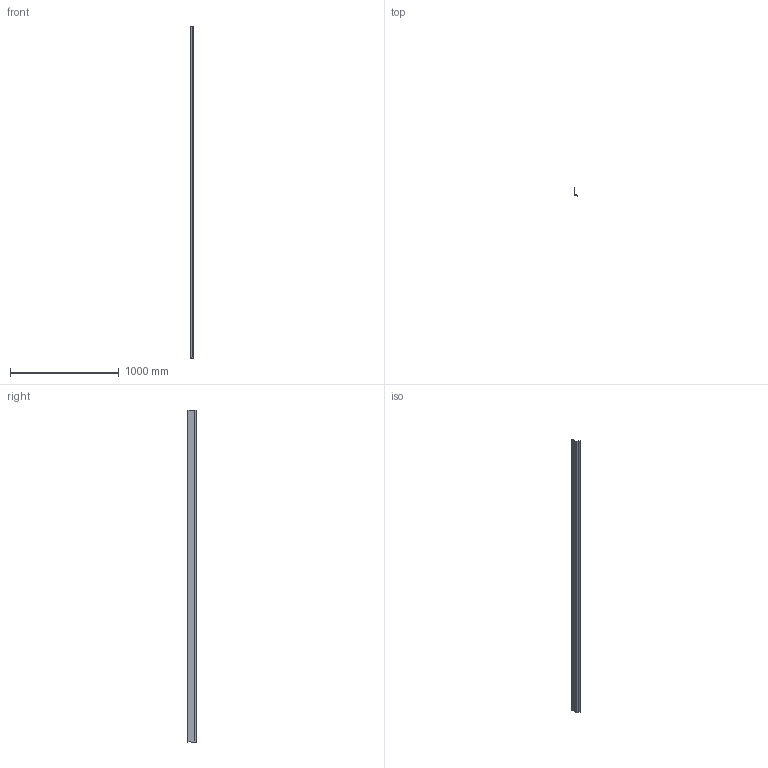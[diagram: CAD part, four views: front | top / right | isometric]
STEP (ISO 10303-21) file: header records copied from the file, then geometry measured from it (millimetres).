
FILE_DESCRIPTION (( 'STEP AP203' ), '1' );
FILE_NAME ('M55G.STEP', '2018-06-15T17:28:52', ( 'Michael Moliner' ), ( '' ), 'SwSTEP 2.0', 'SolidWorks 2018', '' );
FILE_SCHEMA (( 'CONFIG_CONTROL_DESIGN' ));
Length unit declared in the file: inch
Products named in the file (2): M55G
Bounding box: 34.02 x 75.77 x 3048 mm (x, y, z)
Volume: 216125.4 mm3; surface area: 854126 mm2
Topology: 1 solids, 1 shells, 21 faces, 57 edges, 38 vertices
Faces by surface type: plane 14, cylinder 7
Entity records: 822 total; most frequent: CARTESIAN_POINT 118, DIRECTION 117, ORIENTED_EDGE 114, EDGE_CURVE 57, VECTOR 43, LINE 43, VERTEX_POINT 38, AXIS2_PLACEMENT_3D 37
